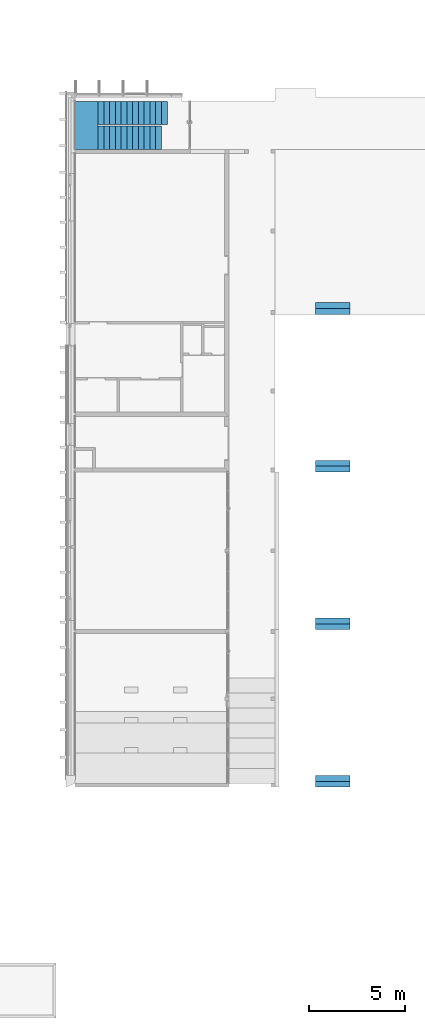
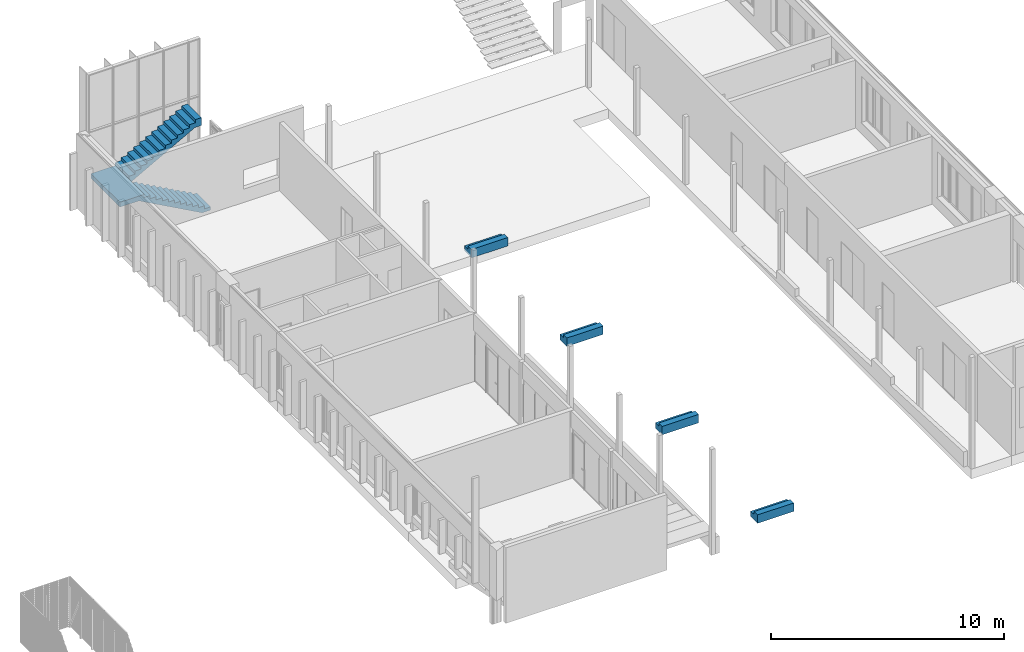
# One storey, part 28 of 65: 5 stairs.
"""IFC2X3 building model written with IfcOpenShell, lengths in millimetres."""

from ifc_helpers import new_model, entity, si_unit, converted_unit, derived_unit, money_unit, direction, frame, origin_with_axes, place, context, subcontext, project, spatial, faceted_brep, material, material_list, element, save


model = new_model("IFC2X3")

# Units and contexts
model_context = context("Model", 3, precision=0.01, world=origin_with_axes(), true_north=direction((0.0, 1.0)))
body_context = subcontext(model_context, "Body", "Model", "MODEL_VIEW")
ifc_project = project(units=[si_unit("LENGTHUNIT", "METRE", prefix="MILLI"), si_unit("AREAUNIT", "SQUARE_METRE"), si_unit("VOLUMEUNIT", "CUBIC_METRE"), converted_unit("PLANEANGLEUNIT", "DEGREE", entity("IfcPlaneAngleMeasure", 0.0174532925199), si_unit("PLANEANGLEUNIT", "RADIAN"), dimensions=[0, 0, 0, 0, 0, 0, 0]), si_unit("SOLIDANGLEUNIT", "STERADIAN"), money_unit("EUR"), converted_unit("TIMEUNIT", "Year", entity("IfcTimeMeasure", 31556926.0), si_unit("TIMEUNIT", "SECOND"), dimensions=[0, 0, 1, 0, 0, 0, 0]), si_unit("MASSUNIT", "GRAM", prefix="KILO"), si_unit("THERMODYNAMICTEMPERATUREUNIT", "DEGREE_CELSIUS"), si_unit("LUMINOUSINTENSITYUNIT", "LUMEN"), si_unit("ENERGYUNIT", "JOULE", prefix="MEGA"), derived_unit("THERMALCONDUCTANCEUNIT", [(si_unit("POWERUNIT", "WATT"), 1), (si_unit("LENGTHUNIT", "METRE"), -1), (si_unit("THERMODYNAMICTEMPERATUREUNIT", "KELVIN"), -1)]), derived_unit("SPECIFICHEATCAPACITYUNIT", [(si_unit("ENERGYUNIT", "JOULE"), 1), (si_unit("MASSUNIT", "GRAM", prefix="KILO"), -1), (si_unit("THERMODYNAMICTEMPERATUREUNIT", "KELVIN"), -1)]), derived_unit("MASSDENSITYUNIT", [(si_unit("MASSUNIT", "GRAM", prefix="KILO"), 1), (si_unit("VOLUMEUNIT", "CUBIC_METRE"), -1)])], contexts=[model_context])

# Site, building, storey
site_placement = place(None, origin_with_axes())
site = spatial("IfcSite", under=ifc_project, at=site_placement, Name="Puškini 31, Narva", CompositionType="ELEMENT")
building_placement = place(site_placement, origin_with_axes())
building = spatial("IfcBuilding", under=site, at=building_placement, Name="Narva Riigigümnaasium", CompositionType="ELEMENT")
storey_placement = place(building_placement, frame((0.0, 0.0, -1320.0), z_axis=(0.0, 0.0, 1.0), x_axis=(1.0, 0.0, 0.0)))
storey = spatial("IfcBuildingStorey", under=building, at=storey_placement, Name="1.korrus -1.32", CompositionType="ELEMENT", Elevation=-1320.0)

# Stairs
ifc_material_1 = material(Name="KON-04_Betoon - Konstuktsioon")
ifc_material_2 = material(Name="Puit - Põrand")
ifc_material_list_1 = material_list([ifc_material_1, ifc_material_2, ifc_material_2, ifc_material_2, ifc_material_2])
stair_1_placement = place(storey_placement, frame((36700.1874326, 184399.999915, 0.0), z_axis=(0.0, 0.0, 1.0), x_axis=(-0.999999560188, 0.000937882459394, 0.0)))
element("IfcStair", 1, at=stair_1_placement, inside=storey, material=ifc_material_list_1, Name="aula astmestik", ShapeType="NOTDEFINED", context=body_context, shape_type="Brep", body=[
    faceted_brep([(-0.290742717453, 509.999863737, 320.0), (-0.290742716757, 509.999862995, 155.0), (1799.70846562, 511.688051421, 155.0), (1799.70846562, 511.688051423, 320.0), (-0.562728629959, 799.999735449, 320.0), (-0.562728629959, 799.999735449, 86.2457557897), (-0.562728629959, 799.999735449, -110.0), (-0.228081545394, 443.189427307, -110.0), (-0.00937664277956, 209.999994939, -110.0), (2.20043006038e-06, 200.000003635, -110.0), (8.45631120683e-07, 199.999999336, 0.0), (-0.00937797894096, 209.999994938, 0.0), (-0.00937797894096, 209.999994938, 155.0), (1799.98983032, 211.688183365, 155.0), (1799.98983032, 211.688183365, 0.0), (1799.99920918, 201.688187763, 0.0), (1799.99920918, 201.688191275, -110.0), (1799.98983036, 211.688183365, -110.0), (1799.77112599, 444.877615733, -110.0), (1799.43647971, 801.687923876, -110.0), (1799.43647971, 801.687923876, 86.2457557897), (1799.43647971, 801.687923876, 320.0)], [[[0, 1, 2, 3]], [[4, 5, 6, 7, 8, 9, 10, 11, 12, 1, 0]], [[1, 12, 13, 2]], [[3, 2, 13, 14, 15, 16, 17, 18, 19, 20, 21]], [[21, 4, 0, 3]], [[21, 20, 5, 4]], [[6, 5, 20, 19]], [[6, 19, 18, 7]], [[7, 18, 17, 8]], [[16, 9, 8, 17]], [[15, 10, 9, 16]], [[10, 15, 14, 11]], [[13, 12, 11, 14]]]),
    faceted_brep([(8.45631120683e-07, 199.999999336, 155.0), (1799.99920918, 201.688187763, 155.0), (1799.98983036, 211.688183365, 155.0), (-0.00937797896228, 209.999994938, 155.0), (8.45631120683e-07, 199.999999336, 0.0), (1799.99920918, 201.688187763, 0.0), (1799.98983036, 211.688183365, 0.0), (-0.00937797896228, 209.999994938, 0.0)], [[[0, 1, 2, 3]], [[4, 5, 1, 0]], [[1, 5, 6, 2]], [[3, 2, 6, 7]], [[0, 3, 7, 4]], [[7, 6, 5, 4]]]),
    faceted_brep([(-0.281363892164, 499.999867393, 320.0), (1799.71784445, 501.688055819, 320.0), (1799.70846562, 511.688051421, 320.0), (-0.290742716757, 509.999862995, 320.0), (-0.281363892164, 499.999867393, 165.0), (1799.71784445, 501.688055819, 165.0), (1799.70846562, 511.688051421, 165.0), (-0.290742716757, 509.999862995, 165.0)], [[[0, 1, 2, 3]], [[4, 5, 1, 0]], [[1, 5, 6, 2]], [[3, 2, 6, 7]], [[0, 3, 7, 4]], [[7, 6, 5, 4]]]),
    faceted_brep([(1799.99920918, 201.688187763, 155.0), (1799.99920918, 201.688187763, 165.0), (8.45631120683e-07, 199.999999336, 165.0), (8.45631120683e-07, 199.999999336, 155.0), (1799.70846562, 511.688051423, 155.0), (1799.70846562, 511.688051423, 165.0), (-0.290742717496, 509.999863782, 165.0), (-0.290742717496, 509.999863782, 155.0)], [[[0, 1, 2, 3]], [[4, 5, 1, 0]], [[1, 5, 6, 2]], [[3, 2, 6, 7]], [[0, 3, 7, 4]], [[7, 6, 5, 4]]]),
    faceted_brep([(1799.71784445, 501.688055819, 320.0), (1799.71784445, 501.688055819, 330.0), (-0.281363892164, 499.999867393, 330.0), (-0.281363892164, 499.999867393, 320.0), (1799.43647971, 801.687923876, 320.0), (1799.43647971, 801.687923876, 330.0), (-0.562728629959, 799.999735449, 330.0), (-0.505513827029, 738.995526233, 330.0), (-0.505513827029, 738.995526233, 320.0), (-0.562728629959, 799.999735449, 320.0)], [[[0, 1, 2, 3]], [[4, 5, 1, 0]], [[1, 5, 6, 7, 2]], [[3, 2, 7, 8]], [[0, 3, 8, 9, 4]], [[9, 6, 5, 4]], [[8, 7, 6, 9]]]),
])
stair_2_placement = place(storey_placement, frame((36700.1874326, 167999.999847, 660.0), z_axis=(0.0, 0.0, 1.0), x_axis=(-0.999999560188, 0.000937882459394, 0.0)))
element("IfcStair", 2, at=stair_2_placement, inside=storey, material=ifc_material_list_1, Name="aula astmestik", ShapeType="NOTDEFINED", context=body_context, shape_type="Brep", body=[
    faceted_brep([(-0.290742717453, 509.999863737, 320.0), (-0.290742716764, 509.999862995, 155.0), (1799.70846562, 511.688051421, 155.0), (1799.70846562, 511.688051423, 320.0), (-0.562728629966, 799.999735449, 320.0), (-0.562728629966, 799.999735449, 86.2457557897), (-0.562728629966, 799.999735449, -110.0), (-0.228081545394, 443.189427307, -110.0), (-0.00937664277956, 209.999994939, -110.0), (2.20043006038e-06, 200.000003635, -110.0), (8.45631120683e-07, 199.999999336, 0.0), (-0.00937797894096, 209.999994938, 0.0), (-0.00937797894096, 209.999994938, 155.0), (1799.98983032, 211.688183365, 155.0), (1799.98983032, 211.688183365, 0.0), (1799.99920918, 201.688187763, 0.0), (1799.99920918, 201.688191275, -110.0), (1799.98983036, 211.688183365, -110.0), (1799.77112599, 444.877615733, -110.0), (1799.43647971, 801.687923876, -110.0), (1799.43647971, 801.687923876, 86.2457557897), (1799.43647971, 801.687923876, 320.0)], [[[0, 1, 2, 3]], [[4, 5, 6, 7, 8, 9, 10, 11, 12, 1, 0]], [[1, 12, 13, 2]], [[3, 2, 13, 14, 15, 16, 17, 18, 19, 20, 21]], [[21, 4, 0, 3]], [[21, 20, 5, 4]], [[6, 5, 20, 19]], [[6, 19, 18, 7]], [[7, 18, 17, 8]], [[16, 9, 8, 17]], [[15, 10, 9, 16]], [[10, 15, 14, 11]], [[13, 12, 11, 14]]]),
    faceted_brep([(8.45631120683e-07, 199.999999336, 155.0), (1799.99920918, 201.688187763, 155.0), (1799.98983036, 211.688183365, 155.0), (-0.00937797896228, 209.999994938, 155.0), (8.45631120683e-07, 199.999999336, 0.0), (1799.99920918, 201.688187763, 0.0), (1799.98983036, 211.688183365, 0.0), (-0.00937797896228, 209.999994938, 0.0)], [[[0, 1, 2, 3]], [[4, 5, 1, 0]], [[1, 5, 6, 2]], [[3, 2, 6, 7]], [[0, 3, 7, 4]], [[7, 6, 5, 4]]]),
    faceted_brep([(-0.281363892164, 499.999867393, 320.0), (1799.71784445, 501.688055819, 320.0), (1799.70846562, 511.688051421, 320.0), (-0.290742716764, 509.999862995, 320.0), (-0.281363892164, 499.999867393, 165.0), (1799.71784445, 501.688055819, 165.0), (1799.70846562, 511.688051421, 165.0), (-0.290742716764, 509.999862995, 165.0)], [[[0, 1, 2, 3]], [[4, 5, 1, 0]], [[1, 5, 6, 2]], [[3, 2, 6, 7]], [[0, 3, 7, 4]], [[7, 6, 5, 4]]]),
    faceted_brep([(1799.99920918, 201.688187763, 155.0), (1799.99920918, 201.688187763, 165.0), (8.45631120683e-07, 199.999999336, 165.0), (8.45631120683e-07, 199.999999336, 155.0), (1799.70846562, 511.688051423, 155.0), (1799.70846562, 511.688051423, 165.0), (-0.290742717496, 509.999863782, 165.0), (-0.290742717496, 509.999863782, 155.0)], [[[0, 1, 2, 3]], [[4, 5, 1, 0]], [[1, 5, 6, 2]], [[3, 2, 6, 7]], [[0, 3, 7, 4]], [[7, 6, 5, 4]]]),
    faceted_brep([(1799.71784445, 501.688055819, 320.0), (1799.71784445, 501.688055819, 330.0), (-0.281363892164, 499.999867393, 330.0), (-0.281363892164, 499.999867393, 320.0), (1799.43647971, 801.687923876, 320.0), (1799.43647971, 801.687923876, 330.0), (-0.562728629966, 799.999735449, 330.0), (-0.505513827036, 738.995526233, 330.0), (-0.505513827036, 738.995526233, 320.0), (-0.562728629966, 799.999735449, 320.0)], [[[0, 1, 2, 3]], [[4, 5, 1, 0]], [[1, 5, 6, 7, 2]], [[3, 2, 7, 8]], [[0, 3, 8, 9, 4]], [[9, 6, 5, 4]], [[8, 7, 6, 9]]]),
])
stair_3_placement = place(storey_placement, frame((36700.1874326, 159799.999912, 990.0), z_axis=(0.0, 0.0, 1.0), x_axis=(-0.999999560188, 0.000937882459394, 0.0)))
element("IfcStair", 3, at=stair_3_placement, inside=storey, material=ifc_material_list_1, Name="aula astmestik", ShapeType="NOTDEFINED", context=body_context, shape_type="Brep", body=[
    faceted_brep([(-0.290742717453, 509.999863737, 320.0), (-0.290742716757, 509.999862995, 155.0), (1799.70846562, 511.688051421, 155.0), (1799.70846562, 511.688051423, 320.0), (-0.562728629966, 799.999735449, 320.0), (-0.562728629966, 799.999735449, 86.2457557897), (-0.562728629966, 799.999735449, -110.0), (-0.228081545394, 443.189427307, -110.0), (-0.00937664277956, 209.999994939, -110.0), (2.20043006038e-06, 200.000003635, -110.0), (8.45631120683e-07, 199.999999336, 0.0), (-0.00937797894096, 209.999994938, 0.0), (-0.00937797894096, 209.999994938, 155.0), (1799.98983032, 211.688183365, 155.0), (1799.98983032, 211.688183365, 0.0), (1799.99920918, 201.688187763, 0.0), (1799.99920918, 201.688191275, -110.0), (1799.98983036, 211.688183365, -110.0), (1799.77112599, 444.877615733, -110.0), (1799.43647971, 801.687923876, -110.0), (1799.43647971, 801.687923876, 86.2457557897), (1799.43647971, 801.687923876, 320.0)], [[[0, 1, 2, 3]], [[4, 5, 6, 7, 8, 9, 10, 11, 12, 1, 0]], [[1, 12, 13, 2]], [[3, 2, 13, 14, 15, 16, 17, 18, 19, 20, 21]], [[21, 4, 0, 3]], [[21, 20, 5, 4]], [[6, 5, 20, 19]], [[6, 19, 18, 7]], [[7, 18, 17, 8]], [[16, 9, 8, 17]], [[15, 10, 9, 16]], [[10, 15, 14, 11]], [[13, 12, 11, 14]]]),
    faceted_brep([(8.45631120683e-07, 199.999999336, 155.0), (1799.99920918, 201.688187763, 155.0), (1799.98983036, 211.688183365, 155.0), (-0.00937797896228, 209.999994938, 155.0), (8.45631120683e-07, 199.999999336, 0.0), (1799.99920918, 201.688187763, 0.0), (1799.98983036, 211.688183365, 0.0), (-0.00937797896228, 209.999994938, 0.0)], [[[0, 1, 2, 3]], [[4, 5, 1, 0]], [[1, 5, 6, 2]], [[3, 2, 6, 7]], [[0, 3, 7, 4]], [[7, 6, 5, 4]]]),
    faceted_brep([(-0.281363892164, 499.999867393, 320.0), (1799.71784445, 501.688055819, 320.0), (1799.70846562, 511.688051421, 320.0), (-0.290742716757, 509.999862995, 320.0), (-0.281363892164, 499.999867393, 165.0), (1799.71784445, 501.688055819, 165.0), (1799.70846562, 511.688051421, 165.0), (-0.290742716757, 509.999862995, 165.0)], [[[0, 1, 2, 3]], [[4, 5, 1, 0]], [[1, 5, 6, 2]], [[3, 2, 6, 7]], [[0, 3, 7, 4]], [[7, 6, 5, 4]]]),
    faceted_brep([(1799.99920918, 201.688187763, 155.0), (1799.99920918, 201.688187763, 165.0), (8.45631120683e-07, 199.999999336, 165.0), (8.45631120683e-07, 199.999999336, 155.0), (1799.70846562, 511.688051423, 155.0), (1799.70846562, 511.688051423, 165.0), (-0.290742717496, 509.999863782, 165.0), (-0.290742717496, 509.999863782, 155.0)], [[[0, 1, 2, 3]], [[4, 5, 1, 0]], [[1, 5, 6, 2]], [[3, 2, 6, 7]], [[0, 3, 7, 4]], [[7, 6, 5, 4]]]),
    faceted_brep([(1799.71784445, 501.688055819, 320.0), (1799.71784445, 501.688055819, 330.0), (-0.281363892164, 499.999867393, 330.0), (-0.281363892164, 499.999867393, 320.0), (1799.43647971, 801.687923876, 320.0), (1799.43647971, 801.687923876, 330.0), (-0.562728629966, 799.999735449, 330.0), (-0.505513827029, 738.995526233, 330.0), (-0.505513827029, 738.995526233, 320.0), (-0.562728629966, 799.999735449, 320.0)], [[[0, 1, 2, 3]], [[4, 5, 1, 0]], [[1, 5, 6, 7, 2]], [[3, 2, 7, 8]], [[0, 3, 8, 9, 4]], [[9, 6, 5, 4]], [[8, 7, 6, 9]]]),
])
stair_4_placement = place(storey_placement, frame((36700.1874326, 176199.999858, 330.0), z_axis=(0.0, 0.0, 1.0), x_axis=(-0.999999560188, 0.000937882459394, 0.0)))
element("IfcStair", 4, at=stair_4_placement, inside=storey, material=ifc_material_list_1, Name="aula astmestik", ShapeType="NOTDEFINED", context=body_context, shape_type="Brep", body=[
    faceted_brep([(-0.290742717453, 509.999863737, 320.0), (-0.290742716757, 509.999862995, 155.0), (1799.70846562, 511.688051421, 155.0), (1799.70846562, 511.688051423, 320.0), (-0.562728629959, 799.999735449, 320.0), (-0.562728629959, 799.999735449, 86.2457557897), (-0.562728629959, 799.999735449, -110.0), (-0.228081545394, 443.189427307, -110.0), (-0.00937664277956, 209.999994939, -110.0), (2.20043006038e-06, 200.000003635, -110.0), (8.45631120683e-07, 199.999999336, 0.0), (-0.00937797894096, 209.999994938, 0.0), (-0.00937797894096, 209.999994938, 155.0), (1799.98983032, 211.688183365, 155.0), (1799.98983032, 211.688183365, 0.0), (1799.99920918, 201.688187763, 0.0), (1799.99920918, 201.688191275, -110.0), (1799.98983036, 211.688183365, -110.0), (1799.77112599, 444.877615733, -110.0), (1799.43647971, 801.687923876, -110.0), (1799.43647971, 801.687923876, 86.2457557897), (1799.43647971, 801.687923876, 320.0)], [[[0, 1, 2, 3]], [[4, 5, 6, 7, 8, 9, 10, 11, 12, 1, 0]], [[1, 12, 13, 2]], [[3, 2, 13, 14, 15, 16, 17, 18, 19, 20, 21]], [[21, 4, 0, 3]], [[21, 20, 5, 4]], [[6, 5, 20, 19]], [[6, 19, 18, 7]], [[7, 18, 17, 8]], [[16, 9, 8, 17]], [[15, 10, 9, 16]], [[10, 15, 14, 11]], [[13, 12, 11, 14]]]),
    faceted_brep([(8.45631120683e-07, 199.999999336, 155.0), (1799.99920918, 201.688187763, 155.0), (1799.98983036, 211.688183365, 155.0), (-0.00937797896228, 209.999994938, 155.0), (8.45631120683e-07, 199.999999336, 0.0), (1799.99920918, 201.688187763, 0.0), (1799.98983036, 211.688183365, 0.0), (-0.00937797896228, 209.999994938, 0.0)], [[[0, 1, 2, 3]], [[4, 5, 1, 0]], [[1, 5, 6, 2]], [[3, 2, 6, 7]], [[0, 3, 7, 4]], [[7, 6, 5, 4]]]),
    faceted_brep([(-0.281363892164, 499.999867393, 320.0), (1799.71784445, 501.688055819, 320.0), (1799.70846562, 511.688051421, 320.0), (-0.290742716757, 509.999862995, 320.0), (-0.281363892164, 499.999867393, 165.0), (1799.71784445, 501.688055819, 165.0), (1799.70846562, 511.688051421, 165.0), (-0.290742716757, 509.999862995, 165.0)], [[[0, 1, 2, 3]], [[4, 5, 1, 0]], [[1, 5, 6, 2]], [[3, 2, 6, 7]], [[0, 3, 7, 4]], [[7, 6, 5, 4]]]),
    faceted_brep([(1799.99920918, 201.688187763, 155.0), (1799.99920918, 201.688187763, 165.0), (8.45631120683e-07, 199.999999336, 165.0), (8.45631120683e-07, 199.999999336, 155.0), (1799.70846562, 511.688051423, 155.0), (1799.70846562, 511.688051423, 165.0), (-0.290742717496, 509.999863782, 165.0), (-0.290742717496, 509.999863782, 155.0)], [[[0, 1, 2, 3]], [[4, 5, 1, 0]], [[1, 5, 6, 2]], [[3, 2, 6, 7]], [[0, 3, 7, 4]], [[7, 6, 5, 4]]]),
    faceted_brep([(1799.71784445, 501.688055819, 320.0), (1799.71784445, 501.688055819, 330.0), (-0.281363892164, 499.999867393, 330.0), (-0.281363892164, 499.999867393, 320.0), (1799.43647971, 801.687923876, 320.0), (1799.43647971, 801.687923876, 330.0), (-0.562728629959, 799.999735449, 330.0), (-0.505513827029, 738.995526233, 330.0), (-0.505513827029, 738.995526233, 320.0), (-0.562728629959, 799.999735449, 320.0)], [[[0, 1, 2, 3]], [[4, 5, 1, 0]], [[1, 5, 6, 7, 2]], [[3, 2, 7, 8]], [[0, 3, 8, 9, 4]], [[9, 6, 5, 4]], [[8, 7, 6, 9]]]),
])
ifc_material_3 = material(Name="Betoon element")
ifc_material_list_2 = material_list([ifc_material_3, ifc_material_3, ifc_material_3])
stair_5_placement = place(storey_placement, frame((26899.9999984, 193380.0, 0.0), z_axis=(0.0, 0.0, 1.0), x_axis=(1.0, 0.0, 0.0)))
element("IfcStair", 5, at=stair_5_placement, inside=storey, material=ifc_material_list_2, Name="G-TR-06", ShapeType="NOTDEFINED", context=body_context, shape_type="Brep", body=[
    faceted_brep([(-3300.00001334, -1.34110562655e-05, 1730.0), (-3300.00001334, -1200.0, 1730.0), (-3299.99999993, -1200.0, 1815.0), (-3299.99999993, 0.0, 1815.0), (-3560.46226213, -1.34110562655e-05, 1730.0), (-3560.46226213, -1200.0, 1730.0), (-3300.00001334, -1200.0, 1586.74576316), (-3199.99999994, -1200.0, 1531.74575579), (-3099.99999994, -1200.0, 1476.74575579), (-2999.99999994, -1200.0, 1421.74575579), (-2899.99999994, -1200.0, 1366.74575579), (-2799.99999994, -1200.0, 1311.74575579), (-2699.99999995, -1200.0, 1256.74575579), (-2599.99999995, -1200.0, 1201.74575579), (-2499.99999995, -1200.0, 1146.74575579), (-2399.99999995, -1200.0, 1091.74575579), (-2299.99999995, -1200.0, 1036.74575579), (-2199.99999996, -1200.0, 981.745755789), (-2099.99999996, -1200.0, 926.745755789), (-1999.99999996, -1200.0, 871.745755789), (-1899.99999996, -1200.0, 816.745755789), (-1799.99999996, -1200.0, 761.745755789), (-1699.99999997, -1200.0, 706.745755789), (-1599.99999997, -1200.0, 651.745755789), (-1499.99999997, -1200.0, 596.745755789), (-1399.99999997, -1200.0, 541.745755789), (-1299.99999997, -1200.0, 486.745755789), (-1199.99999998, -1200.0, 431.745755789), (-1099.99999998, -1200.0, 376.745755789), (-999.99999998, -1200.0, 321.745755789), (-899.999999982, -1200.0, 266.745755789), (-799.999999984, -1200.0, 211.745755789), (-699.999999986, -1200.0, 156.745755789), (-599.999999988, -1200.0, 101.745755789), (-499.99999999, -1200.0, 46.7457557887), (-415.00771674, -1200.0, 0.0), (0.0, -1200.0, 0.0), (0.0, -1200.0, 165.0), (-299.999999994, -1200.0, 165.0), (-299.999999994, -1200.0, 330.0), (-599.999999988, -1200.0, 330.0), (-599.999999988, -1200.0, 495.0), (-899.999999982, -1200.0, 495.0), (-899.999999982, -1200.0, 660.0), (-1199.99999998, -1200.0, 660.0), (-1199.99999998, -1200.0, 825.0), (-1499.99999997, -1200.0, 825.0), (-1499.99999997, -1200.0, 990.0), (-1799.99999996, -1200.0, 990.0), (-1799.99999996, -1200.0, 1155.0), (-2099.99999996, -1200.0, 1155.0), (-2099.99999996, -1200.0, 1320.0), (-2399.99999995, -1200.0, 1320.0), (-2399.99999995, -1200.0, 1485.0), (-2699.99999995, -1200.0, 1485.0), (-2699.99999995, -1200.0, 1650.0), (-2999.99999994, -1200.0, 1650.0), (-2999.99999994, -1200.0, 1815.0), (-2999.99999994, 0.0, 1815.0), (-2999.99999994, 0.0, 1650.0), (-2699.99999995, 0.0, 1650.0), (-2699.99999995, 0.0, 1485.0), (-2399.99999995, 0.0, 1485.0), (-2399.99999995, 0.0, 1320.0), (-2099.99999996, 0.0, 1320.0), (-2099.99999996, 0.0, 1155.0), (-1799.99999996, 0.0, 1155.0), (-1799.99999996, 0.0, 990.0), (-1499.99999997, 0.0, 990.0), (-1499.99999997, 0.0, 825.0), (-1199.99999998, 0.0, 825.0), (-1199.99999998, 0.0, 660.0), (-899.999999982, 0.0, 660.0), (-899.999999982, 0.0, 495.0), (-599.999999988, 0.0, 495.0), (-599.999999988, 0.0, 330.0), (-299.999999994, 0.0, 330.0), (-299.999999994, 0.0, 165.0), (0.0, 0.0, 165.0), (0.0, 0.0, 0.0), (-415.00771674, 0.0, 0.0), (-499.99999999, 0.0, 46.7457557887), (-599.999999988, 0.0, 101.745755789), (-699.999999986, 0.0, 156.745755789), (-799.999999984, 0.0, 211.745755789), (-899.999999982, 0.0, 266.745755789), (-999.99999998, 0.0, 321.745755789), (-1099.99999998, 0.0, 376.745755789), (-1199.99999998, 0.0, 431.745755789), (-1299.99999997, 0.0, 486.745755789), (-1399.99999997, 0.0, 541.745755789), (-1499.99999997, 0.0, 596.745755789), (-1599.99999997, 0.0, 651.745755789), (-1699.99999997, 0.0, 706.745755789), (-1799.99999996, 0.0, 761.745755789), (-1899.99999996, 0.0, 816.745755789), (-1999.99999996, 0.0, 871.745755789), (-2099.99999996, 0.0, 926.745755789), (-2199.99999996, 0.0, 981.745755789), (-2299.99999995, 0.0, 1036.74575579), (-2399.99999995, 0.0, 1091.74575579), (-2499.99999995, 0.0, 1146.74575579), (-2599.99999995, 0.0, 1201.74575579), (-2699.99999995, 0.0, 1256.74575579), (-2799.99999994, 0.0, 1311.74575579), (-2899.99999994, 0.0, 1366.74575579), (-2999.99999994, 0.0, 1421.74575579), (-3099.99999994, 0.0, 1476.74575579), (-3199.99999994, 0.0, 1531.74575579), (-3300.00001334, -1.34110562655e-05, 1586.74576316)], [[[0, 1, 2, 3]], [[1, 0, 4, 5]], [[6, 7, 8, 9, 10, 11, 12, 13, 14, 15, 16, 17, 18, 19, 20, 21, 22, 23, 24, 25, 26, 27, 28, 29, 30, 31, 32, 33, 34, 35, 36, 37, 38, 39, 40, 41, 42, 43, 44, 45, 46, 47, 48, 49, 50, 51, 52, 53, 54, 55, 56, 57, 2, 1, 5]], [[58, 3, 2, 57]], [[0, 3, 58, 59, 60, 61, 62, 63, 64, 65, 66, 67, 68, 69, 70, 71, 72, 73, 74, 75, 76, 77, 78, 79, 80, 81, 82, 83, 84, 85, 86, 87, 88, 89, 90, 91, 92, 93, 94, 95, 96, 97, 98, 99, 100, 101, 102, 103, 104, 105, 106, 107, 108, 109, 4]], [[109, 108, 7, 6, 5, 4]], [[7, 108, 107, 8]], [[8, 107, 106, 9]], [[9, 106, 105, 10]], [[10, 105, 104, 11]], [[11, 104, 103, 12]], [[12, 103, 102, 13]], [[13, 102, 101, 14]], [[14, 101, 100, 15]], [[15, 100, 99, 16]], [[16, 99, 98, 17]], [[17, 98, 97, 18]], [[18, 97, 96, 19]], [[19, 96, 95, 20]], [[20, 95, 94, 21]], [[21, 94, 93, 22]], [[22, 93, 92, 23]], [[23, 92, 91, 24]], [[24, 91, 90, 25]], [[25, 90, 89, 26]], [[26, 89, 88, 27]], [[27, 88, 87, 28]], [[28, 87, 86, 29]], [[29, 86, 85, 30]], [[30, 85, 84, 31]], [[31, 84, 83, 32]], [[32, 83, 82, 33]], [[33, 82, 81, 34]], [[34, 81, 80, 35]], [[80, 79, 36, 35]], [[36, 79, 78, 37]], [[37, 78, 77, 38]], [[76, 39, 38, 77]], [[39, 76, 75, 40]], [[74, 41, 40, 75]], [[41, 74, 73, 42]], [[72, 43, 42, 73]], [[43, 72, 71, 44]], [[70, 45, 44, 71]], [[45, 70, 69, 46]], [[68, 47, 46, 69]], [[47, 68, 67, 48]], [[66, 49, 48, 67]], [[49, 66, 65, 50]], [[64, 51, 50, 65]], [[51, 64, 63, 52]], [[62, 53, 52, 63]], [[53, 62, 61, 54]], [[60, 55, 54, 61]], [[55, 60, 59, 56]], [[58, 57, 56, 59]]]),
    faceted_brep([(-3300.00001334, 100.000004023, 1730.0), (-3300.00001334, 100.000004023, 1980.0), (-3300.00001334, -1200.0, 1980.0), (-3300.00001334, -1200.0, 1730.0), (-3339.53773507, 100.000004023, 1980.0), (-3339.53773507, 100.000004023, 1730.0), (-3339.53773507, 1290.0, 1980.0), (-4499.99999993, 1290.0, 1980.0), (-4499.99999993, -1200.0, 1980.0), (-4499.99999993, -1200.0, 1730.0), (-4499.99999993, 1290.0, 1730.0), (-3339.53773507, 1290.0, 1730.0)], [[[0, 1, 2, 3]], [[4, 1, 0, 5]], [[4, 6, 7, 8, 2, 1]], [[8, 9, 3, 2]], [[5, 0, 3, 9, 10, 11]], [[11, 6, 4, 5]], [[6, 11, 10, 7]], [[7, 10, 9, 8]]]),
    faceted_brep([(-99.999999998, 1290.0, 3511.74575579), (-21.3559196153, 1290.0, 3555.0), (-21.3559196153, 100.0, 3555.0), (-99.999999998, 100.0, 3511.74575579), (299.999999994, 1290.0, 3555.0), (-199.999999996, 1290.0, 3456.74575579), (-299.999999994, 1290.0, 3401.74575579), (-399.999999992, 1290.0, 3346.74575579), (-499.99999999, 1290.0, 3291.74575579), (-599.999999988, 1290.0, 3236.74575579), (-699.999999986, 1290.0, 3181.74575579), (-799.999999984, 1290.0, 3126.74575579), (-899.999999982, 1290.0, 3071.74575579), (-999.99999998, 1290.0, 3016.74575579), (-1099.99999998, 1290.0, 2961.74575579), (-1199.99999998, 1290.0, 2906.74575579), (-1299.99999997, 1290.0, 2851.74575579), (-1399.99999997, 1290.0, 2796.74575579), (-1499.99999997, 1290.0, 2741.74575579), (-1599.99999997, 1290.0, 2686.74575579), (-1699.99999997, 1290.0, 2631.74575579), (-1799.99999996, 1290.0, 2576.74575579), (-1899.99999996, 1290.0, 2521.74575579), (-1999.99999996, 1290.0, 2466.74575579), (-2099.99999996, 1290.0, 2411.74575579), (-2199.99999996, 1290.0, 2356.74575577), (-2299.99999995, 1290.0, 2301.74575575), (-2399.99999995, 1290.0, 2246.74575571), (-2499.99999995, 1290.0, 2191.74575562), (-2599.99999995, 1290.0, 2136.74575552), (-2699.99999995, 1290.0, 2081.74575543), (-2799.99999994, 1290.0, 2026.74575544), (-2899.99999994, 1290.0, 1971.74575547), (-2999.99999994, 1290.0, 1916.74575419), (-3074.99999826, 1290.0, 1875.49575585), (-3149.99999882, 1290.0, 1834.24575586), (-3224.99999937, 1290.0, 1792.995756), (-3300.00001334, 1290.0, 1751.74574881), (-3339.53773507, 1290.0, 1730.00000202), (-3339.53773507, 1290.0, 1980.0), (-3300.00001334, 1290.0, 1980.0), (-3299.99999993, 1290.0, 2145.0), (-2999.99999994, 1290.0, 2145.0), (-2999.99999994, 1290.0, 2310.0), (-2699.99999995, 1290.0, 2310.0), (-2699.99999995, 1290.0, 2475.0), (-2399.99999995, 1290.0, 2475.0), (-2399.99999995, 1290.0, 2640.0), (-2099.99999996, 1290.0, 2640.0), (-2099.99999996, 1290.0, 2805.0), (-1799.99999996, 1290.0, 2805.0), (-1799.99999996, 1290.0, 2970.0), (-1499.99999997, 1290.0, 2970.0), (-1499.99999997, 1290.0, 3135.0), (-1199.99999998, 1290.0, 3135.0), (-1199.99999998, 1290.0, 3300.0), (-899.999999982, 1290.0, 3300.0), (-899.999999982, 1290.0, 3465.0), (-599.999999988, 1290.0, 3465.0), (-599.999999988, 1290.0, 3630.0), (-299.999999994, 1290.0, 3630.0), (-299.999999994, 1290.0, 3795.0), (0.0, 1290.0, 3795.0), (0.0, 1290.0, 3960.0), (299.999999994, 1290.0, 3960.0), (299.999999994, 1290.0, 3731.74575579), (299.999999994, 100.0, 3555.0), (299.999999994, 100.0, 3731.74575579), (299.999999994, 100.0, 3960.0), (0.0, 100.0, 3960.0), (0.0, 100.0, 3795.0), (-299.999999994, 100.0, 3795.0), (-299.999999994, 100.0, 3630.0), (-599.999999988, 100.0, 3630.0), (-599.999999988, 100.0, 3465.0), (-899.999999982, 100.0, 3465.0), (-899.999999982, 100.0, 3300.0), (-1199.99999998, 100.0, 3300.0), (-1199.99999998, 100.0, 3135.0), (-1499.99999997, 100.0, 3135.0), (-1499.99999997, 100.0, 2970.0), (-1799.99999996, 100.0, 2970.0), (-1799.99999996, 100.0, 2805.0), (-2099.99999996, 100.0, 2805.0), (-2099.99999996, 100.0, 2640.0), (-2399.99999995, 100.0, 2640.0), (-2399.99999995, 100.0, 2475.0), (-2699.99999995, 100.0, 2475.0), (-2699.99999995, 100.0, 2310.0), (-2999.99999994, 100.0, 2310.0), (-2999.99999994, 100.0, 2145.0), (-3299.99999993, 100.0, 2145.0), (-3300.00001334, 100.000004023, 1980.0), (-3339.53773507, 100.000004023, 1980.0), (-3339.53773507, 100.000004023, 1730.00000202), (-3300.00001334, 100.000004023, 1751.74574881), (-3224.99999937, 100.0, 1792.995756), (-3149.99999882, 100.0, 1834.24575586), (-3074.99999826, 100.0, 1875.49575585), (-2999.9999977, 100.0, 1916.74575543), (-2899.99999994, 100.0, 1971.74575547), (-2799.99999994, 100.0, 2026.74575544), (-2699.99999995, 100.0, 2081.74575543), (-2599.99999995, 100.0, 2136.74575552), (-2499.99999995, 100.0, 2191.74575562), (-2399.99999995, 100.0, 2246.74575571), (-2299.99999995, 100.0, 2301.74575575), (-2199.99999996, 100.0, 2356.74575577), (-2099.99999996, 100.0, 2411.74575579), (-1999.99999996, 100.0, 2466.74575579), (-1899.99999996, 100.0, 2521.74575579), (-1799.99999996, 100.0, 2576.74575579), (-1699.99999997, 100.0, 2631.74575579), (-1599.99999997, 100.0, 2686.74575579), (-1499.99999997, 100.0, 2741.74575579), (-1399.99999997, 100.0, 2796.74575579), (-1299.99999997, 100.0, 2851.74575579), (-1199.99999998, 100.0, 2906.74575579), (-1099.99999998, 100.0, 2961.74575579), (-999.99999998, 100.0, 3016.74575579), (-899.999999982, 100.0, 3071.74575579), (-799.999999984, 100.0, 3126.74575579), (-699.999999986, 100.0, 3181.74575579), (-599.999999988, 100.0, 3236.74575579), (-499.99999999, 100.0, 3291.74575579), (-399.999999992, 100.0, 3346.74575579), (-299.999999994, 100.0, 3401.74575579), (-199.999999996, 100.0, 3456.74575579)], [[[0, 1, 2, 3]], [[4, 1, 0, 5, 6, 7, 8, 9, 10, 11, 12, 13, 14, 15, 16, 17, 18, 19, 20, 21, 22, 23, 24, 25, 26, 27, 28, 29, 30, 31, 32, 33, 34, 35, 36, 37, 38, 39, 40, 41, 42, 43, 44, 45, 46, 47, 48, 49, 50, 51, 52, 53, 54, 55, 56, 57, 58, 59, 60, 61, 62, 63, 64, 65]], [[2, 1, 4, 66]], [[2, 66, 67, 68, 69, 70, 71, 72, 73, 74, 75, 76, 77, 78, 79, 80, 81, 82, 83, 84, 85, 86, 87, 88, 89, 90, 91, 92, 93, 94, 95, 96, 97, 98, 99, 100, 101, 102, 103, 104, 105, 106, 107, 108, 109, 110, 111, 112, 113, 114, 115, 116, 117, 118, 119, 120, 121, 122, 123, 124, 125, 126, 127, 3]], [[5, 0, 3, 127]], [[6, 5, 127, 126]], [[7, 6, 126, 125]], [[8, 7, 125, 124]], [[9, 8, 124, 123]], [[10, 9, 123, 122]], [[11, 10, 122, 121]], [[12, 11, 121, 120]], [[13, 12, 120, 119]], [[14, 13, 119, 118]], [[15, 14, 118, 117]], [[16, 15, 117, 116]], [[17, 16, 116, 115]], [[18, 17, 115, 114]], [[19, 18, 114, 113]], [[20, 19, 113, 112]], [[21, 20, 112, 111]], [[22, 21, 111, 110]], [[23, 22, 110, 109]], [[24, 23, 109, 108]], [[25, 24, 108, 107]], [[26, 25, 107, 106]], [[27, 26, 106, 105]], [[28, 27, 105, 104]], [[29, 28, 104, 103]], [[30, 29, 103, 102]], [[31, 30, 102, 101]], [[32, 31, 101, 100]], [[33, 32, 100, 99]], [[34, 33, 99, 98]], [[35, 34, 98, 97]], [[36, 35, 97, 96]], [[37, 36, 96, 95]], [[95, 94, 38, 37]], [[93, 39, 38, 94]], [[40, 39, 93, 92]], [[92, 91, 41, 40]], [[91, 90, 42, 41]], [[43, 42, 90, 89]], [[89, 88, 44, 43]], [[45, 44, 88, 87]], [[87, 86, 46, 45]], [[47, 46, 86, 85]], [[85, 84, 48, 47]], [[49, 48, 84, 83]], [[83, 82, 50, 49]], [[51, 50, 82, 81]], [[81, 80, 52, 51]], [[53, 52, 80, 79]], [[79, 78, 54, 53]], [[55, 54, 78, 77]], [[77, 76, 56, 55]], [[57, 56, 76, 75]], [[75, 74, 58, 57]], [[59, 58, 74, 73]], [[73, 72, 60, 59]], [[61, 60, 72, 71]], [[71, 70, 62, 61]], [[63, 62, 70, 69]], [[69, 68, 64, 63]], [[64, 68, 67, 65]], [[66, 4, 65, 67]]]),
])

save(model, "model.ifc")
